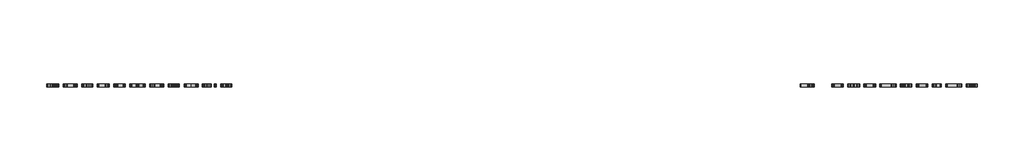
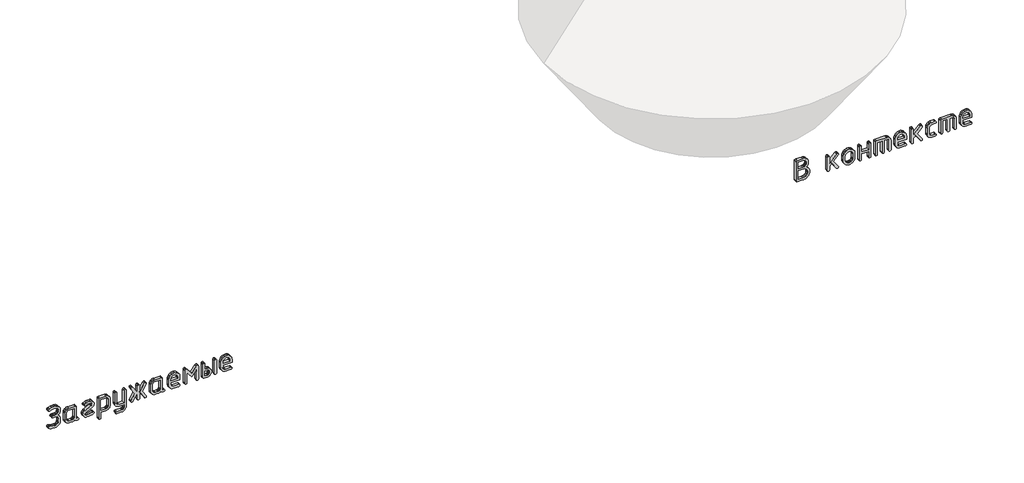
# One storey, part 6 of 6: 2 proxies.
"""IFC4 building model written with IfcOpenShell, lengths in millimetres."""

from ifc_helpers import new_model, si_unit, frame, origin, place, context, project, spatial, polyline, outline, extrude, element, save

model = new_model("IFC4")

# Units and contexts
model_context = context("Model", 3, world=origin())
ifc_project = project(units=[si_unit("LENGTHUNIT", "METRE", prefix="MILLI")], contexts=[model_context])

# Site, building, storey
site = spatial("IfcSite", under=ifc_project)
building = spatial("IfcBuilding", under=site)
storey = spatial("IfcBuildingStorey", under=building, Name="Уровень 1", Elevation=0.0)

# Proxies
placement = place(None, origin())
element("IfcBuildingElementProxy", 1, Name="600 мм Arial", ObjectType="600 мм Arial", at=placement, inside=storey, context=model_context, shape_type="SweptSolid", body=[
    extrude(outline(polyline([(253.4811122, 30670.0590454), (253.4811122, 30730.4380551), (250.122979, 30766.2880922), (240.0485795, 30799.4426377), (223.2579137, 30829.9016918), (199.7509815, 30857.6652543), (171.4820143, 30880.779094), (140.4052434, 30897.2889795), (106.5206689, 30907.1949108), (69.8282908, 30910.4968879), (33.259456, 30907.1724483), (-0.6138873, 30897.1991298), (-31.791739, 30880.5769321), (-60.2740993, 30857.3058554), (-84.016887, 30828.1046974), (-100.9760211, 30793.6922559), (-111.1515015, 30754.0685307), (-114.5433283, 30709.233522), (-114.5433283, 30669.3402476), (-114.5433283, 30633.7597597), (-118.8111899, 30593.8664854), (-124.1460168, 30579.3108313), (-131.6147745, 30568.3491658), (-150.3484405, 30554.6021591), (-172.406546, 30550.0198236), (-194.5994261, 30554.4673846), (-213.0186181, 30567.8100675), (-220.2515203, 30578.7829642), (-225.417879, 30593.9114103), (-229.550966, 30636.6349507), (-229.550966, 30671.137242), (-229.550966, 30707.4365276), (-235.256423, 30766.0859303), (-242.3882443, 30791.9570332), (-252.3727941, 30815.5257371), (-265.2100724, 30836.7920419), (-280.9000792, 30855.7559478), (-299.4428145, 30872.4174547), (-320.8382784, 30886.7765626), (-364.5052408, 30904.5668065), (-411.406793, 30910.4968879), (-531.8054137, 30910.4968879), (-568.2619363, 30907.2286044), (-601.7983432, 30897.423754), (-632.4146342, 30881.0823368), (-660.1108095, 30858.2043526), (-683.0674121, 30830.6092583), (-699.4649855, 30800.1165106), (-709.3035295, 30766.7261096), (-712.5830442, 30730.4380551), (-710.7860498, 30647.5966161), (-705.3950668, 30590.2724967), (-688.9525686, 30526.4791977), (-659.7514106, 30457.2949157), (-654.3604276, 30443.2783599), (-652.5634333, 30429.9806018), (-657.0109942, 30407.2036985), (-670.3536772, 30387.7512348), (-689.8061409, 30374.4085518), (-712.5830442, 30369.9609909), (-728.1944325, 30372.1173841), (-741.9639016, 30378.5865637), (-753.8914515, 30389.3685297), (-763.9770822, 30404.4632822), (-791.8080321, 30466.0777255), (-811.6872819, 30530.8818339), (-823.6148318, 30598.8756071), (-827.5906818, 30670.0590454), (-827.5906818, 30730.4380551), (-822.1435427, 30790.1768857), (-805.8021255, 30845.0413691), (-778.56643, 30895.0315053), (-740.4364564, 30940.1472944), (-694.5569447, 30977.491083), (-644.072635, 31004.1652177), (-588.9835273, 31020.1696986), (-529.2896216, 31025.5045255), (-404.6680643, 31022.7191843), (-331.2608455, 31014.3631606), (-285.6845766, 30999.0662463), (-243.837071, 30975.8176321), (-205.7183286, 30944.6173179), (-171.3283494, 30905.4653037), (-147.6866427, 30933.5994963), (-122.2254791, 30957.9824633), (-94.9448588, 30978.6142045), (-65.8447818, 30995.4947201), (-34.9252479, 31008.62401), (-2.1862573, 31018.0020742), (32.3721901, 31023.6289127), (68.7500942, 31025.5045255), (128.6349305, 31020.1696986), (183.9374313, 31004.1652177), (234.6575965, 30977.491083), (280.7954261, 30940.1472944), (319.1612553, 30895.0315053), (346.5654189, 30845.0413691), (363.0079171, 30790.1768857), (368.4887498, 30730.4380551), (368.4887498, 30670.0590454), (364.5128999, 30597.5278614), (352.58535, 30529.0848395), (332.7061001, 30464.7299798), (304.8751503, 30404.4632822), (294.5199704, 30389.3685297), (282.5025708, 30378.5865637), (268.8229514, 30372.1173841), (253.4811122, 30369.9609909), (231.1534575, 30374.4984016), (211.6111441, 30388.1106337), (197.998912, 30407.6529471), (193.4615013, 30429.9806018), (195.2584956, 30443.2783599), (200.6494786, 30457.2949157), (223.7633183, 30511.159821), (240.2732038, 30564.5754777), (250.1791351, 30617.5418858), (253.4811122, 30670.0590454)])), frame((0.0, 248.4758454, 0.0), z_axis=(0.0, 1.0, 0.0), x_axis=(0.0, 0.0, 1.0)), (0.0, 0.0, 1.0), 150.0),
    extrude(outline(polyline([(-768.2898686, 31996.600266), (-742.5029999, 31992.8490403), (-724.0838079, 31981.5953633), (-713.0322927, 31962.8392349), (-709.3484543, 31936.5806551), (-705.6421535, 31910.3220753), (-694.5232511, 31891.5659469), (-675.9917469, 31880.3122699), (-650.0476412, 31876.5610442), (-58.8365038, 31876.5610442), (-32.8923981, 31872.6750439), (-14.360894, 31861.0170432), (-3.2419915, 31841.5870419), (0.4643093, 31814.3850401), (0.4643093, 31503.8644184), (-3.8260146, 31453.76197), (-16.6969866, 31407.6802964), (-38.1486065, 31365.6193977), (-68.1808744, 31327.5792738), (-104.4127727, 31296.0532544), (-144.4632841, 31273.5346691), (-188.3324083, 31260.0235179), (-236.0201456, 31255.5198008), (-591.1062269, 31255.5198008), (-638.7939641, 31260.0235179), (-682.6630884, 31273.5346691), (-722.7135997, 31296.0532544), (-758.9454981, 31327.5792738), (-788.977766, 31365.6193977), (-810.4293859, 31407.6802964), (-823.3003578, 31453.76197), (-827.5906818, 31503.8644184), (-827.5906818, 31628.2164266), (-823.6148318, 31676.0614009), (-811.6872819, 31720.0428373), (-791.8080321, 31760.1607359), (-763.9770822, 31796.4150967), (-791.8080321, 31826.0655033), (-811.6872819, 31859.3098985), (-823.6148318, 31896.1482825), (-827.5906818, 31936.5806551), (-823.884381, 31962.8392349), (-812.7654785, 31981.5953633), (-794.2339744, 31992.8490403), (-768.2898686, 31996.600266)]), holes=[polyline([(-114.5433283, 31761.5534065), (-592.9032212, 31761.5534065), (-616.9380205, 31759.172389), (-639.0859757, 31752.0293365), (-659.3470869, 31740.1242491), (-677.721354, 31723.4571266), (-692.9733434, 31703.3981773), (-703.8676216, 31681.3176093), (-710.4041885, 31657.2154228), (-712.5830442, 31631.0916176), (-712.5830442, 31500.9892275), (-710.3704949, 31475.1574339), (-703.732847, 31451.2124843), (-692.6701006, 31429.1543788), (-677.1822557, 31408.9831173), (-658.6395204, 31392.1587578), (-638.4121028, 31380.1413582), (-616.5000031, 31372.9309184), (-592.9032212, 31370.5274385), (-234.2231513, 31370.5274385), (-210.188352, 31372.908456), (-188.0403968, 31380.0515085), (-167.7792856, 31391.956596), (-149.4050185, 31408.6237185), (-134.153029, 31428.6826678), (-123.2587509, 31450.7632357), (-116.722184, 31474.8654223), (-114.5433283, 31500.9892275), (-114.5433283, 31761.5534065)])]), frame((0.0, 248.4758454, 0.0), z_axis=(0.0, 1.0, 0.0), x_axis=(0.0, 0.0, 1.0)), (0.0, 0.0, 1.0), 150.0),
    extrude(outline(polyline([(-652.5634333, 32767.1514383), (-656.8762197, 32744.1499108), (-681.2479554, 32675.4822646), (-698.656338, 32601.3787106), (-709.1013676, 32521.8392487), (-712.5830442, 32436.8638789), (-710.954518, 32418.8602419), (-706.0689397, 32402.226813), (-697.9263091, 32386.9635924), (-686.5266262, 32373.0705799), (-672.8133132, 32361.5136601), (-657.729792, 32353.2587173), (-641.2760626, 32348.3057517), (-623.452125, 32346.6547631), (-597.1036955, 32349.8444281), (-574.8434281, 32359.4134229), (-556.6713229, 32375.3617477), (-542.5873797, 32397.6894023), (-395.5932429, 32706.0536308), (-380.0773199, 32734.4405258), (-362.2814603, 32759.0425014), (-342.2056642, 32779.8595577), (-319.8499315, 32796.8916946), (-295.2142622, 32810.1389123), (-268.2986564, 32819.6012106), (-239.103114, 32825.2785896), (-207.6276351, 32827.1710492), (-165.9373664, 32823.3299738), (-127.4816876, 32811.8067476), (-92.2605985, 32792.6013706), (-60.2740993, 32765.7138429), (-33.7010455, 32733.3679448), (-14.7202928, 32697.7874569), (-3.3318412, 32658.9723792), (0.4643093, 32616.9227116), (-3.5564655, 32525.9049484), (-15.61879, 32445.8488506), (-35.7226642, 32376.7544183), (-63.868088, 32318.6216515), (-74.3131176, 32304.627558), (-86.2406675, 32294.631777), (-99.6507377, 32288.6343084), (-114.5433283, 32286.6351522), (-136.870983, 32291.1725629), (-156.4132964, 32304.784795), (-170.0255285, 32324.3271085), (-174.5629392, 32346.6547631), (-172.7659449, 32362.0190647), (-167.3749619, 32375.0472737), (-142.4865903, 32421.9488259), (-127.4816876, 32464.8969906), (-117.7779181, 32527.5222433), (-114.5433283, 32616.9227116), (-116.1718544, 32634.9263487), (-121.0574328, 32651.5597775), (-129.2000634, 32666.8229982), (-140.5997462, 32680.7160106), (-154.3130593, 32692.2729305), (-169.3965805, 32700.5278732), (-185.8503099, 32705.4808389), (-203.6742475, 32707.1318274), (-229.5060411, 32704.0544746), (-251.2945975, 32694.8224162), (-269.0399166, 32679.4356522), (-282.7419984, 32657.8941825), (-431.5331296, 32346.6547631), (-447.0490526, 32318.5205705), (-464.8449122, 32294.1376036), (-484.9207083, 32273.5058623), (-507.276441, 32256.6253468), (-531.9121102, 32243.4960569), (-558.8277161, 32234.1179927), (-588.0232585, 32228.4911542), (-619.4987374, 32226.6155413), (-661.1890061, 32230.4566167), (-699.6446849, 32241.9798429), (-734.865774, 32261.1852199), (-766.8522732, 32288.0727477), (-793.425327, 32320.4186458), (-812.4060797, 32355.9991337), (-823.7945313, 32394.8142114), (-827.5906818, 32436.8638789), (-823.6148318, 32549.5803488), (-811.6872819, 32646.5731182), (-791.8080321, 32727.8421872), (-778.8865196, 32762.580334), (-763.9770822, 32793.3875557), (-753.8914515, 32808.1678341), (-741.9639016, 32818.7251758), (-728.1944325, 32825.0595809), (-712.5830442, 32827.1710492), (-686.3244644, 32823.4198235), (-667.568336, 32812.1661465), (-656.3146589, 32793.4100181), (-652.5634333, 32767.1514383)])), frame((0.0, 248.4758454, 0.0), z_axis=(0.0, 1.0, 0.0), x_axis=(0.0, 0.0, 1.0)), (0.0, 0.0, 1.0), 150.0),
    extrude(outline(polyline([(-59.1959027, 33072.6404759), (-1135.9549103, 33072.6404759), (-1162.0562531, 33076.2344645), (-1180.7000693, 33087.0164306), (-1191.8863591, 33104.986374), (-1195.6151223, 33130.1442947), (-1191.7740469, 33155.3022154), (-1180.2508207, 33173.2721588), (-1161.0454437, 33184.0541248), (-1134.157916, 33187.6481135), (-827.5906818, 33187.6481135), (-827.5906818, 33440.6649164), (-823.2778954, 33491.7894053), (-810.3395362, 33538.7808072), (-788.7756041, 33581.6391222), (-758.5860992, 33620.3643502), (-722.2418887, 33652.4406992), (-682.2138398, 33675.352377), (-638.5019526, 33689.0993837), (-591.1062269, 33693.6817192), (-236.0201456, 33693.6817192), (-188.3324083, 33689.1780022), (-144.4632841, 33675.666851), (-104.4127727, 33653.1482657), (-68.1808744, 33621.6222462), (-38.1486065, 33583.5821223), (-16.6969866, 33541.5212236), (-3.8260146, 33495.43955), (0.4643093, 33445.3371016), (0.4643093, 33134.81648), (-3.2644539, 33107.6144782), (-14.4507437, 33088.1844769), (-33.0945599, 33076.5264761), (-59.1959027, 33072.6404759)]), holes=[polyline([(-114.5433283, 33187.6481135), (-114.5433283, 33448.2122926), (-116.6997215, 33474.7741152), (-123.1689011, 33499.1121572), (-133.9508672, 33521.2264188), (-149.0456196, 33541.1168999), (-167.3075746, 33557.5481669), (-187.5911482, 33569.2847861), (-209.8963404, 33576.3267577), (-234.2231513, 33578.6740816), (-592.9032212, 33578.6740816), (-616.9380205, 33576.2930641), (-639.0859757, 33569.1500116), (-659.3470869, 33557.2449241), (-677.721354, 33540.5778016), (-692.9733434, 33520.5188523), (-703.8676216, 33498.4382844), (-710.4041885, 33474.3360978), (-712.5830442, 33448.2122926), (-712.5830442, 33187.6481135), (-114.5433283, 33187.6481135)])]), frame((0.0, 248.4758454, 0.0), z_axis=(0.0, 1.0, 0.0), x_axis=(0.0, 0.0, 1.0)), (0.0, 0.0, 1.0), 150.0),
    extrude(outline(polyline([(-955.8960776, 34429.7306002), (-981.6941775, 34427.3832764), (-1005.1786473, 34420.3413048), (-1026.3494869, 34408.6046856), (-1045.2066962, 34392.1734186), (-1060.6945412, 34372.2829375), (-1071.7572875, 34350.1686759), (-1078.3949354, 34325.8306338), (-1080.6074847, 34299.2688113), (-1080.6074847, 34038.7046322), (-1084.9651959, 34016.3769775), (-1098.0383297, 33996.8346641), (-1116.7719957, 33983.222432), (-1138.1113035, 33978.6850213), (-1163.2692242, 33982.436247), (-1181.2391676, 33993.689924), (-1192.0211336, 34012.4460524), (-1195.6151223, 34038.7046322), (-1195.6151223, 34294.596626), (-1191.1675613, 34345.1932478), (-1177.8248784, 34391.6792451), (-1155.5870734, 34434.0546179), (-1124.4541465, 34472.3193661), (-1086.9868146, 34504.0026225), (-1045.7457945, 34526.6335199), (-1000.7310863, 34540.2120584), (-951.94269, 34544.7382379), (-37.6319706, 34544.7382379), (-10.9016799, 34541.1442492), (8.191385, 34530.3622832), (19.6472239, 34512.3923398), (23.4658369, 34487.2344191), (19.6247615, 34462.0764983), (8.1015353, 34444.1065549), (-11.1038417, 34433.3245889), (-37.9913695, 34429.7306002), (-712.5830442, 34429.7306002), (-712.5830442, 34169.1664212), (-710.3143388, 34143.3346276), (-703.5082227, 34119.389678), (-692.164696, 34097.3315725), (-676.2837585, 34077.160311), (-657.2805434, 34060.3359515), (-636.5701836, 34048.3185519), (-614.1526793, 34041.1081121), (-590.0280303, 34038.7046322), (-37.9913695, 34038.7046322), (-11.1038417, 34035.1106435), (8.1015353, 34024.3286775), (19.6247615, 34006.3587341), (23.4658369, 33981.2008134), (19.6696863, 33956.0428926), (8.2812347, 33938.0729492), (-10.699518, 33927.2909832), (-37.2725718, 33923.6969945), (-584.2776484, 33923.6969945), (-633.0548135, 33928.2793301), (-678.035828, 33942.0263368), (-719.220692, 33964.9380146), (-756.6094054, 33997.0143635), (-787.6637139, 34035.7395915), (-809.8453627, 34078.5979065), (-823.154352, 34125.5893085), (-827.5906818, 34176.7137974), (-827.5906818, 34429.7306002), (-955.8960776, 34429.7306002)])), frame((0.0, 248.4758454, 0.0), z_axis=(0.0, 1.0, 0.0), x_axis=(0.0, 0.0, 1.0)), (0.0, 0.0, 1.0), 150.0),
    extrude(outline(polyline([(-421.4699613, 35142.7779537), (-766.8522732, 35142.7779537), (-793.425327, 35146.3719424), (-812.4060797, 35157.1539084), (-823.7945313, 35175.1238518), (-827.5906818, 35200.2817726), (-823.7945313, 35225.4396933), (-812.4060797, 35243.4096367), (-793.425327, 35254.1916027), (-766.8522732, 35257.7855914), (-421.4699613, 35257.7855914), (-800.9951656, 35507.9272033), (-812.6307039, 35517.5186606), (-820.9418028, 35529.0418868), (-825.9284621, 35542.4968819), (-827.5906818, 35557.8836459), (-823.7945313, 35584.1422257), (-812.4060797, 35602.8983541), (-793.425327, 35614.1520311), (-766.8522732, 35617.9032568), (-748.6127806, 35615.3874647), (-732.7093807, 35607.8400885), (-402.0624225, 35388.6067792), (-71.4154642, 35607.8400885), (-55.5120643, 35615.3874647), (-37.2725718, 35617.9032568), (-10.699518, 35614.1520311), (8.2812347, 35602.8983541), (19.6696863, 35584.1422257), (23.4658369, 35557.8836459), (21.8036171, 35542.4968819), (16.8169578, 35529.0418868), (8.505859, 35517.5186606), (-3.1296793, 35507.9272033), (-382.6548836, 35257.7855914), (-37.2725718, 35257.7855914), (-10.699518, 35254.1916027), (8.2812347, 35243.4096367), (19.6696863, 35225.4396933), (23.4658369, 35200.2817726), (19.6696863, 35175.1238518), (8.2812347, 35157.1539084), (-10.699518, 35146.3719424), (-37.2725718, 35142.7779537), (-382.6548836, 35142.7779537), (-3.1296793, 34892.276943), (8.505859, 34882.6854857), (16.8169578, 34871.1622595), (21.8036171, 34857.7072644), (23.4658369, 34842.3205003), (19.6696863, 34816.0619206), (8.2812347, 34797.3057922), (-10.699518, 34786.0521151), (-37.2725718, 34782.3008894), (-55.5120643, 34784.8166815), (-71.4154642, 34792.3640577), (-402.0624225, 35011.597367), (-732.7093807, 34792.3640577), (-748.6127806, 34784.8166815), (-766.8522732, 34782.3008894), (-789.9436504, 34786.7484504), (-809.6207384, 34800.0911334), (-823.098196, 34819.5435971), (-827.5906818, 34842.3205003), (-825.9284621, 34857.7072644), (-820.9418028, 34871.1622595), (-812.6307039, 34882.6854857), (-800.9951656, 34892.276943), (-421.4699613, 35142.7779537)])), frame((0.0, 248.4758454, 0.0), z_axis=(0.0, 1.0, 0.0), x_axis=(0.0, 0.0, 1.0)), (0.0, 0.0, 1.0), 150.0),
    extrude(outline(polyline([(-768.2898686, 36596.9057724), (-742.5029999, 36593.1545467), (-724.0838079, 36581.9008697), (-713.0322927, 36563.1447413), (-709.3484543, 36536.8861615), (-705.6421535, 36510.6275817), (-694.5232511, 36491.8714533), (-675.9917469, 36480.6177763), (-650.0476412, 36476.8665506), (-58.8365038, 36476.8665506), (-32.8923981, 36472.9805503), (-14.360894, 36461.3225496), (-3.2419915, 36441.8925483), (0.4643093, 36414.6905465), (0.4643093, 36104.1699248), (-3.8260146, 36054.0674764), (-16.6969866, 36007.9858028), (-38.1486065, 35965.9249041), (-68.1808744, 35927.8847802), (-104.4127727, 35896.3587608), (-144.4632841, 35873.8401755), (-188.3324083, 35860.3290243), (-236.0201456, 35855.8253072), (-591.1062269, 35855.8253072), (-638.7939641, 35860.3290243), (-682.6630884, 35873.8401755), (-722.7135997, 35896.3587608), (-758.9454981, 35927.8847802), (-788.977766, 35965.9249041), (-810.4293859, 36007.9858028), (-823.3003578, 36054.0674764), (-827.5906818, 36104.1699248), (-827.5906818, 36228.521933), (-823.6148318, 36276.3669073), (-811.6872819, 36320.3483437), (-791.8080321, 36360.4662423), (-763.9770822, 36396.7206031), (-791.8080321, 36426.3710097), (-811.6872819, 36459.6154049), (-823.6148318, 36496.4537889), (-827.5906818, 36536.8861615), (-823.884381, 36563.1447413), (-812.7654785, 36581.9008697), (-794.2339744, 36593.1545467), (-768.2898686, 36596.9057724)]), holes=[polyline([(-114.5433283, 36361.8589129), (-592.9032212, 36361.8589129), (-616.9380205, 36359.4778954), (-639.0859757, 36352.3348429), (-659.3470869, 36340.4297554), (-677.721354, 36323.7626329), (-692.9733434, 36303.7036836), (-703.8676216, 36281.6231157), (-710.4041885, 36257.5209291), (-712.5830442, 36231.397124), (-712.5830442, 36101.2947339), (-710.3704949, 36075.4629402), (-703.732847, 36051.5179907), (-692.6701006, 36029.4598852), (-677.1822557, 36009.2886237), (-658.6395204, 35992.4642642), (-638.4121028, 35980.4468646), (-616.5000031, 35973.2364248), (-592.9032212, 35970.8329449), (-234.2231513, 35970.8329449), (-210.188352, 35973.2139624), (-188.0403968, 35980.3570149), (-167.7792856, 35992.2621024), (-149.4050185, 36008.9292249), (-134.153029, 36028.9881742), (-123.2587509, 36051.0687421), (-116.722184, 36075.1709287), (-114.5433283, 36101.2947339), (-114.5433283, 36361.8589129)])]), frame((0.0, 248.4758454, 0.0), z_axis=(0.0, 1.0, 0.0), x_axis=(0.0, 0.0, 1.0)), (0.0, 0.0, 1.0), 150.0),
    extrude(outline(polyline([(-459.5662413, 36936.8971012), (-459.5662413, 37417.4133873), (-278.429212, 37417.4133873), (-217.3089421, 37411.9774794), (-161.1753314, 37395.6697558), (-110.02838, 37368.4902165), (-63.868088, 37330.4388613), (-25.6594959, 37284.4807311), (1.6323557, 37233.5808665), (18.0074666, 37177.7392674), (23.4658369, 37116.9559339), (17.9063856, 37057.2171034), (1.2280319, 37002.35262), (-26.5692242, 36952.3624837), (-65.4853829, 36907.2466946), (-112.2858542, 36869.902906), (-163.7360483, 36843.2287713), (-219.8359653, 36827.2242905), (-280.5856052, 36821.8894636), (-584.2776484, 36821.8894636), (-633.4928308, 36826.0787066), (-678.7097009, 36838.6464358), (-719.9282585, 36859.592651), (-757.1485037, 36888.9173524), (-787.9669567, 36924.5539964), (-809.9801373, 36964.4360395), (-823.1880457, 37008.5634817), (-827.5906818, 37056.936323), (-827.5906818, 37357.3937764), (-823.9966931, 37383.6523562), (-813.2147271, 37402.4084846), (-795.2447837, 37413.6621616), (-770.086863, 37417.4133873), (-744.9289422, 37413.6621616), (-726.9589989, 37402.4084846), (-716.1770328, 37383.6523562), (-712.5830442, 37357.3937764), (-712.5830442, 37056.936323), (-710.2469515, 37033.3283099), (-703.2386736, 37011.3825165), (-691.5582104, 36991.098943), (-675.2055619, 36972.4775891), (-655.6183236, 36956.9111257), (-634.234091, 36945.7922232), (-611.052864, 36939.1208817), (-586.0746427, 36936.8971012), (-459.5662413, 36936.8971012)]), holes=[polyline([(-104.48016, 37116.9559339), (-107.7821371, 37152.963208), (-117.6880684, 37186.2300657), (-134.1979539, 37216.756507), (-157.3117936, 37244.542532), (-185.0753561, 37267.6563716), (-215.5344101, 37284.1662571), (-248.6889557, 37294.0721884), (-284.5389927, 37297.3741655), (-344.5586036, 37297.3741655), (-344.5586036, 36936.8971012), (-284.5389927, 36936.8971012), (-248.6889557, 36940.1990783), (-215.5344101, 36950.1050096), (-185.0753561, 36966.6148951), (-157.3117936, 36989.7287348), (-134.1979539, 37017.4922973), (-117.6880684, 37047.9513513), (-107.7821371, 37081.1058969), (-104.48016, 37116.9559339)])]), frame((0.0, 248.4758454, 0.0), z_axis=(0.0, 1.0, 0.0), x_axis=(0.0, 0.0, 1.0)), (0.0, 0.0, 1.0), 150.0),
    extrude(outline(polyline([(-519.9452511, 38037.3764341), (-212.2998203, 38286.4398494), (-766.8522732, 38293.9872256), (-793.425327, 38297.5812143), (-812.4060797, 38308.3631803), (-823.7945313, 38326.3331237), (-827.5906818, 38351.4910444), (-823.7945313, 38376.6489652), (-812.4060797, 38394.6189086), (-793.425327, 38405.4008746), (-766.8522732, 38408.9948633), (-37.2725718, 38408.9948633), (-10.699518, 38405.4008746), (8.2812347, 38394.6189086), (19.6696863, 38376.6489652), (23.4658369, 38351.4910444), (21.0848194, 38337.1150897), (13.9417669, 38322.739135), (2.0366794, 38308.3631803), (-14.6304431, 38293.9872256), (-322.2758738, 38040.9704228), (-14.6304431, 37787.9536199), (2.0366794, 37773.5776652), (13.9417669, 37759.2017105), (21.0848194, 37744.8257558), (23.4658369, 37730.4498011), (19.6696863, 37705.2918803), (8.2812347, 37687.321937), (-10.699518, 37676.5399709), (-37.2725718, 37672.9459822), (-766.8522732, 37672.9459822), (-793.425327, 37676.5399709), (-812.4060797, 37687.321937), (-823.7945313, 37705.2918803), (-827.5906818, 37730.4498011), (-823.7945313, 37755.6077218), (-812.4060797, 37773.5776652), (-793.425327, 37784.3596312), (-766.8522732, 37787.9536199), (-212.2998203, 37787.9536199), (-519.9452511, 38037.3764341)])), frame((0.0, 248.4758454, 0.0), z_axis=(0.0, 1.0, 0.0), x_axis=(0.0, 0.0, 1.0)), (0.0, 0.0, 1.0), 150.0),
    extrude(outline(polyline([(-37.2725718, 39260.0513819), (-766.8522732, 39260.0513819), (-793.425327, 39263.6453706), (-812.4060797, 39274.4273367), (-823.7945313, 39292.39728), (-827.5906818, 39317.5552008), (-823.7945313, 39342.7131215), (-812.4060797, 39360.6830649), (-793.425327, 39371.4650309), (-766.8522732, 39375.0590196), (-37.2725718, 39375.0590196), (-10.699518, 39371.4650309), (8.2812347, 39360.6830649), (19.6696863, 39342.7131215), (23.4658369, 39317.5552008), (19.6696863, 39292.39728), (8.2812347, 39274.4273367), (-10.699518, 39263.6453706), (-37.2725718, 39260.0513819)])), frame((0.0, 248.4758454, 0.0), z_axis=(0.0, 1.0, 0.0), x_axis=(0.0, 0.0, 1.0)), (0.0, 0.0, 1.0), 150.0),
    extrude(outline(polyline([(-586.0746427, 39114.4948405), (-537.2076279, 39110.1371293), (-492.3164631, 39097.0639954), (-451.4011483, 39075.2754391), (-414.4616834, 39044.7714602), (-383.879086, 39007.9555387), (-362.0343736, 38967.2311545), (-348.9275461, 38922.5983076), (-344.5586036, 38874.0569981), (-344.5586036, 38754.0177762), (-37.9913695, 38754.0177762), (-11.1038417, 38750.4237876), (8.1015353, 38739.6418215), (19.6247615, 38721.6718782), (23.4658369, 38696.5139574), (19.6696863, 38671.3560367), (8.2812347, 38653.3860933), (-10.699518, 38642.6041273), (-37.2725718, 38639.0101386), (-766.8522732, 38639.0101386), (-793.425327, 38642.6041273), (-812.4060797, 38653.3860933), (-823.7945313, 38671.3560367), (-827.5906818, 38696.5139574), (-827.5906818, 38874.0569981), (-823.2217393, 38922.5983076), (-810.1149119, 38967.2311545), (-788.2701994, 39007.9555387), (-757.687602, 39044.7714602), (-720.7481372, 39075.2754391), (-679.8328223, 39097.0639954), (-634.9416575, 39110.1371293), (-586.0746427, 39114.4948405)]), holes=[polyline([(-586.0746427, 38994.4556187), (-611.4908814, 38992.2655319), (-634.9079639, 38985.6952713), (-656.3258901, 38974.7448371), (-675.7446602, 38959.4142291), (-691.8614532, 38940.9388811), (-703.3734482, 38920.5542266), (-710.2806452, 38898.2602655), (-712.5830442, 38874.0569981), (-712.5830442, 38754.0177762), (-459.5662413, 38754.0177762), (-459.5662413, 38874.0569981), (-461.8461779, 38898.5522771), (-468.6859876, 38921.0034751), (-480.0856704, 38941.4105921), (-496.0452264, 38959.773628), (-515.3516843, 38974.9469989), (-536.792073, 38985.785121), (-560.3663925, 38992.2879943), (-586.0746427, 38994.4556187)])]), frame((0.0, 248.4758454, 0.0), z_axis=(0.0, 1.0, 0.0), x_axis=(0.0, 0.0, 1.0)), (0.0, 0.0, 1.0), 150.0),
    extrude(outline(polyline([(-459.5662413, 39720.0819326), (-459.5662413, 40200.5982187), (-278.429212, 40200.5982187), (-217.3089421, 40195.1623108), (-161.1753314, 40178.8545872), (-110.02838, 40151.6750478), (-63.868088, 40113.6236927), (-25.6594959, 40067.6655625), (1.6323557, 40016.7656979), (18.0074666, 39960.9240988), (23.4658369, 39900.1407653), (17.9063856, 39840.4019348), (1.2280319, 39785.5374514), (-26.5692242, 39735.5473151), (-65.4853829, 39690.431526), (-112.2858542, 39653.0877374), (-163.7360483, 39626.4136027), (-219.8359653, 39610.4091219), (-280.5856052, 39605.0742949), (-584.2776484, 39605.0742949), (-633.4928308, 39609.263538), (-678.7097009, 39621.8312671), (-719.9282585, 39642.7774824), (-757.1485037, 39672.1021837), (-787.9669567, 39707.7388277), (-809.9801373, 39747.6208708), (-823.1880457, 39791.748313), (-827.5906818, 39840.1211544), (-827.5906818, 40140.5786078), (-823.9966931, 40166.8371875), (-813.2147271, 40185.593316), (-795.2447837, 40196.846993), (-770.086863, 40200.5982187), (-744.9289422, 40196.846993), (-726.9589989, 40185.593316), (-716.1770328, 40166.8371875), (-712.5830442, 40140.5786078), (-712.5830442, 39840.1211544), (-710.2469515, 39816.5131413), (-703.2386736, 39794.5673479), (-691.5582104, 39774.2837743), (-675.2055619, 39755.6624205), (-655.6183236, 39740.095957), (-634.234091, 39728.9770546), (-611.052864, 39722.3057131), (-586.0746427, 39720.0819326), (-459.5662413, 39720.0819326)]), holes=[polyline([(-104.48016, 39900.1407653), (-107.7821371, 39936.1480394), (-117.6880684, 39969.414897), (-134.1979539, 39999.9413384), (-157.3117936, 40027.7273633), (-185.0753561, 40050.841203), (-215.5344101, 40067.3510885), (-248.6889557, 40077.2570198), (-284.5389927, 40080.5589969), (-344.5586036, 40080.5589969), (-344.5586036, 39720.0819326), (-284.5389927, 39720.0819326), (-248.6889557, 39723.3839097), (-215.5344101, 39733.289841), (-185.0753561, 39749.7997265), (-157.3117936, 39772.9135661), (-134.1979539, 39800.6771287), (-117.6880684, 39831.1361827), (-107.7821371, 39864.2907282), (-104.48016, 39900.1407653)])]), frame((0.0, 248.4758454, 0.0), z_axis=(0.0, 1.0, 0.0), x_axis=(0.0, 0.0, 1.0)), (0.0, 0.0, 1.0), 150.0),
])
element("IfcBuildingElementProxy", 2, Name="600 мм Arial", ObjectType="600 мм Arial", at=placement, inside=storey, context=model_context, shape_type="SweptSolid", body=[
    extrude(outline(polyline([(-165.9373664, 70919.1224607), (-142.548362, 70944.0557571), (-117.4859066, 70965.664614), (-90.7500002, 70983.9490314), (-62.3406428, 70998.9090093), (-32.2578344, 71010.5445477), (-0.5015751, 71018.8556465), (32.9281352, 71023.8423058), (68.0312965, 71025.5045255), (128.81463, 71020.0236928), (184.656229, 71003.5811946), (235.5560937, 70976.1770309), (281.5142239, 70937.8112018), (319.565579, 70891.4487479), (346.7451184, 70840.0547098), (363.052842, 70783.6290876), (368.4887498, 70722.1718812), (368.4887498, 70419.1986357), (364.7599866, 70392.625582), (353.5736968, 70373.6448293), (334.9298806, 70362.2563776), (308.8285378, 70358.4602271), (-767.9304698, 70358.4602271), (-794.0318125, 70362.3013025), (-812.6756288, 70373.8245287), (-823.8619186, 70393.0299057), (-827.5906818, 70419.9174335), (-827.5906818, 70726.4846676), (-825.9537323, 70763.8846123), (-821.0428837, 70799.8918863), (-812.858136, 70834.5064898), (-801.3994893, 70867.7284226), (-786.6669436, 70899.5576848), (-768.6604987, 70929.9942764), (-747.3801548, 70959.0381974), (-722.8259119, 70986.6894478), (-695.9580387, 71011.9596807), (-667.7368042, 71033.8605492), (-638.1622083, 71052.3920533), (-607.2342511, 71067.554193), (-574.9529325, 71079.3469684), (-541.3182525, 71087.7703793), (-506.3302112, 71092.8244259), (-469.9888085, 71094.5091081), (-420.8185509, 71091.7686917), (-374.8379582, 71083.5474426), (-332.0470306, 71069.8453608), (-292.4457678, 71050.6624463), (-256.03417, 71025.998699), (-222.8122372, 70995.8541189), (-192.7799693, 70960.2287062), (-165.9373664, 70919.1224607)]), holes=[polyline([(253.4811122, 70473.4678648), (253.4811122, 70723.2500778), (250.1117478, 70760.6387912), (240.0036546, 70795.1747762), (223.1568327, 70826.8580326), (199.571282, 70855.6885605), (171.2236963, 70879.6672037), (140.0907694, 70896.794806), (106.1725013, 70907.0713674), (69.4688919, 70910.4968879), (32.7652826, 70907.0713674), (-1.1529856, 70896.794806), (-32.2859125, 70879.6672037), (-60.6334982, 70855.6885605), (-84.2190489, 70826.8580326), (-101.0658708, 70795.1747762), (-111.1739639, 70760.6387912), (-114.5433283, 70723.2500778), (-114.5433283, 70473.4678648), (253.4811122, 70473.4678648)]), polyline([(-229.550966, 70473.4678648), (-229.550966, 70726.4846676), (-233.9199085, 70777.6091565), (-247.0267359, 70824.6005585), (-268.8714484, 70867.4588735), (-299.4540457, 70906.1841014), (-336.3935106, 70938.2604504), (-377.3088255, 70961.1721282), (-422.1999903, 70974.9191349), (-471.0670051, 70979.5014705), (-519.9340199, 70974.9191349), (-564.8251847, 70961.1721282), (-605.7404995, 70938.2604504), (-642.6799644, 70906.1841014), (-673.2625618, 70867.4588735), (-695.1072742, 70824.6005585), (-708.2141017, 70777.6091565), (-712.5830442, 70726.4846676), (-712.5830442, 70473.4678648), (-229.550966, 70473.4678648)])]), frame((0.0, 248.4758454, 0.0), z_axis=(0.0, 1.0, 0.0), x_axis=(0.0, 0.0, 1.0)), (0.0, 0.0, 1.0), 150.0),
    extrude(outline(polyline([(-376.185704, 72152.5793746), (-37.2725718, 72152.5793746), (-10.699518, 72148.9853859), (8.2812347, 72138.2034199), (19.6696863, 72120.2334765), (23.4658369, 72095.0755558), (19.6696863, 72069.917635), (8.2812347, 72051.9476916), (-10.699518, 72041.1657256), (-37.2725718, 72037.5717369), (-766.8522732, 72037.5717369), (-793.425327, 72041.1657256), (-812.4060797, 72051.9476916), (-823.7945313, 72069.917635), (-827.5906818, 72095.0755558), (-823.8394561, 72120.2334765), (-812.5857791, 72138.2034199), (-793.8296507, 72148.9853859), (-767.5710709, 72152.5793746), (-550.8535537, 72152.5793746), (-439.0805058, 72264.7118213), (-802.0733622, 72522.7602083), (-813.2371895, 72532.7784517), (-821.2113519, 72544.5038398), (-825.9958493, 72557.9363725), (-827.5906818, 72573.0760498), (-823.8394561, 72599.3346295), (-812.5857791, 72618.090758), (-793.8296507, 72629.344435), (-767.5710709, 72633.0956607), (-749.0620292, 72630.13062), (-731.6311841, 72621.235498), (-346.7149968, 72350.9675495), (-79.6816382, 72614.7663184), (-59.9147004, 72628.5133251), (-37.2725718, 72633.0956607), (-10.699518, 72629.344435), (8.2812347, 72618.090758), (19.6696863, 72599.3346295), (23.4658369, 72573.0760498), (19.0632007, 72549.6252737), (5.8552924, 72530.3075845), (-376.185704, 72152.5793746)])), frame((0.0, 248.4758454, 0.0), z_axis=(0.0, 1.0, 0.0), x_axis=(0.0, 0.0, 1.0)), (0.0, 0.0, 1.0), 150.0),
    extrude(outline(polyline([(-523.5392398, 72888.6282556), (-584.2888796, 72894.300019), (-640.3887966, 72911.3153091), (-691.8389908, 72939.674126), (-738.6394621, 72979.3764697), (-777.5556207, 73027.1428255), (-805.3528769, 73079.6936786), (-822.0312306, 73137.0290292), (-827.5906818, 73199.1488773), (-822.0312306, 73261.2687253), (-805.3528769, 73318.6040759), (-777.5556207, 73371.1549291), (-738.6394621, 73418.9212849), (-691.8389908, 73458.6236285), (-640.3887966, 73486.9824454), (-584.2888796, 73503.9977356), (-523.5392398, 73509.669499), (-280.5856052, 73509.669499), (-218.9599306, 73504.0538917), (-162.3883026, 73487.2070697), (-110.8707211, 73459.1290332), (-64.4071863, 73419.819782), (-25.9627387, 73372.3342067), (1.4975811, 73319.7271974), (17.9737729, 73261.9987543), (23.4658369, 73199.1488773), (17.9063856, 73137.0290292), (1.2280319, 73079.6936786), (-26.5692242, 73027.1428255), (-65.4853829, 72979.3764697), (-112.2858542, 72939.674126), (-163.7360483, 72911.3153091), (-219.8359653, 72894.300019), (-280.5856052, 72888.6282556), (-523.5392398, 72888.6282556)]), holes=[polyline([(-532.5242114, 73394.6618613), (-568.3742485, 73391.0791038), (-601.528794, 73380.3308315), (-631.9878481, 73362.4170441), (-659.7514106, 73337.3377419), (-682.8652503, 73307.2043931), (-699.3751358, 73274.1284661), (-709.2810671, 73238.1099608), (-712.5830442, 73199.1488773), (-709.3147607, 73159.7497764), (-699.5099103, 73123.4954156), (-683.1684931, 73090.385795), (-660.2905089, 73060.4209144), (-632.6954146, 73035.5774676), (-602.2026669, 73017.8321485), (-568.8122659, 73007.1849571), (-532.5242114, 73003.6358933), (-292.086369, 73003.6358933), (-256.2363319, 73007.2186507), (-223.0817864, 73017.9669231), (-192.6227323, 73035.8807104), (-164.8591698, 73060.9600127), (-141.7453301, 73091.0933615), (-125.2354446, 73124.1692885), (-115.3295133, 73160.1877938), (-112.0275363, 73199.1488773), (-115.3295133, 73238.1099608), (-125.2354446, 73274.1284661), (-141.7453301, 73307.2043931), (-164.8591698, 73337.3377419), (-192.6227323, 73362.4170441), (-223.0817864, 73380.3308315), (-256.2363319, 73391.0791038), (-292.086369, 73394.6618613), (-532.5242114, 73394.6618613)])]), frame((0.0, 248.4758454, 0.0), z_axis=(0.0, 1.0, 0.0), x_axis=(0.0, 0.0, 1.0)), (0.0, 0.0, 1.0), 150.0),
    extrude(outline(polyline([(-459.5662413, 73854.6924119), (-459.5662413, 74245.71838), (-766.1334754, 74245.71838), (-793.0210032, 74249.3123687), (-812.2263802, 74260.0943347), (-823.7496064, 74278.0642781), (-827.5906818, 74303.2221988), (-823.7945313, 74328.3801196), (-812.4060797, 74346.3500629), (-793.425327, 74357.132029), (-766.8522732, 74360.7260176), (-37.2725718, 74360.7260176), (-10.699518, 74357.132029), (8.2812347, 74346.3500629), (19.6696863, 74328.3801196), (23.4658369, 74303.2221988), (19.6247615, 74278.0642781), (8.1015353, 74260.0943347), (-11.1038417, 74249.3123687), (-37.9913695, 74245.71838), (-344.5586036, 74245.71838), (-344.5586036, 73854.6924119), (-37.9913695, 73854.6924119), (-11.1038417, 73851.0984233), (8.1015353, 73840.3164572), (19.6247615, 73822.3465139), (23.4658369, 73797.1885931), (19.6696863, 73772.0306724), (8.2812347, 73754.060729), (-10.699518, 73743.278763), (-37.2725718, 73739.6847743), (-766.8522732, 73739.6847743), (-793.425327, 73743.278763), (-812.4060797, 73754.060729), (-823.7945313, 73772.0306724), (-827.5906818, 73797.1885931), (-823.7496064, 73822.3465139), (-812.2263802, 73840.3164572), (-793.0210032, 73851.0984233), (-766.1334754, 73854.6924119), (-459.5662413, 73854.6924119)])), frame((0.0, 248.4758454, 0.0), z_axis=(0.0, 1.0, 0.0), x_axis=(0.0, 0.0, 1.0)), (0.0, 0.0, 1.0), 150.0),
    extrude(outline(polyline([(0.4643093, 74651.4797016), (-3.2419915, 74624.9066478), (-14.360894, 74605.9258951), (-32.8923981, 74594.5374435), (-58.8365038, 74590.741293), (-768.2898686, 74590.741293), (-794.2339744, 74594.3352816), (-812.7654785, 74605.1172477), (-823.884381, 74623.0871911), (-827.5906818, 74648.2451118), (-823.884381, 74673.4030325), (-812.7654785, 74691.3729759), (-794.2339744, 74702.1549419), (-768.2898686, 74705.7489306), (-114.5433283, 74705.7489306), (-114.5433283, 74958.7657335), (-768.2898686, 74958.7657335), (-794.2339744, 74962.3597222), (-812.7654785, 74973.1416882), (-823.884381, 74991.1116316), (-827.5906818, 75016.2695523), (-823.884381, 75041.427473), (-812.7654785, 75059.3974164), (-794.2339744, 75070.1793825), (-768.2898686, 75073.7733711), (-114.5433283, 75073.7733711), (-114.5433283, 75200.2817726), (-116.6772591, 75225.9900228), (-123.0790514, 75249.5643423), (-133.7487053, 75271.004731), (-148.6862208, 75290.3111889), (-166.7909387, 75306.2707449), (-186.9622002, 75317.6704277), (-209.2000051, 75324.5102374), (-233.5043535, 75326.790174), (-768.2898686, 75326.790174), (-794.2339744, 75330.3841627), (-812.7654785, 75341.1661287), (-823.884381, 75359.1360721), (-827.5906818, 75384.2939928), (-823.884381, 75409.4519136), (-812.7654785, 75427.4218569), (-794.2339744, 75438.203823), (-768.2898686, 75441.7978116), (-236.0201456, 75441.7978116), (-188.6244199, 75437.3614819), (-144.9125326, 75424.0524926), (-104.8844838, 75401.8708437), (-68.5402733, 75370.8165353), (-38.3507684, 75333.4278218), (-16.7868363, 75292.2429578), (-3.8484771, 75247.2619433), (0.4643093, 75198.4847782), (0.4643093, 74651.4797016)])), frame((0.0, 248.4758454, 0.0), z_axis=(0.0, 1.0, 0.0), x_axis=(0.0, 0.0, 1.0)), (0.0, 0.0, 1.0), 150.0),
    extrude(outline(polyline([(-459.5662413, 75786.8207246), (-459.5662413, 76267.3370107), (-278.429212, 76267.3370107), (-217.3089421, 76261.9011028), (-161.1753314, 76245.5933792), (-110.02838, 76218.4138399), (-63.868088, 76180.3624847), (-25.6594959, 76134.4043545), (1.6323557, 76083.5044899), (18.0074666, 76027.6628908), (23.4658369, 75966.8795573), (17.9063856, 75907.1407268), (1.2280319, 75852.2762434), (-26.5692242, 75802.2861072), (-65.4853829, 75757.170318), (-112.2858542, 75719.8265294), (-163.7360483, 75693.1523947), (-219.8359653, 75677.1479139), (-280.5856052, 75671.813087), (-584.2776484, 75671.813087), (-633.4928308, 75676.00233), (-678.7097009, 75688.5700592), (-719.9282585, 75709.5162744), (-757.1485037, 75738.8409758), (-787.9669567, 75774.4776198), (-809.9801373, 75814.3596629), (-823.1880457, 75858.4871051), (-827.5906818, 75906.8599464), (-827.5906818, 76207.3173998), (-823.9966931, 76233.5759796), (-813.2147271, 76252.332108), (-795.2447837, 76263.585785), (-770.086863, 76267.3370107), (-744.9289422, 76263.585785), (-726.9589989, 76252.332108), (-716.1770328, 76233.5759796), (-712.5830442, 76207.3173998), (-712.5830442, 75906.8599464), (-710.2469515, 75883.2519333), (-703.2386736, 75861.30614), (-691.5582104, 75841.0225664), (-675.2055619, 75822.4012125), (-655.6183236, 75806.8347491), (-634.234091, 75795.7158466), (-611.052864, 75789.0445051), (-586.0746427, 75786.8207246), (-459.5662413, 75786.8207246)]), holes=[polyline([(-104.48016, 75966.8795573), (-107.7821371, 76002.8868314), (-117.6880684, 76036.1536891), (-134.1979539, 76066.6801304), (-157.3117936, 76094.4661554), (-185.0753561, 76117.579995), (-215.5344101, 76134.0898805), (-248.6889557, 76143.9958118), (-284.5389927, 76147.2977889), (-344.5586036, 76147.2977889), (-344.5586036, 75786.8207246), (-284.5389927, 75786.8207246), (-248.6889557, 75790.1227017), (-215.5344101, 75800.028633), (-185.0753561, 75816.5385185), (-157.3117936, 75839.6523582), (-134.1979539, 75867.4159207), (-117.6880684, 75897.8749747), (-107.7821371, 75931.0295203), (-104.48016, 75966.8795573)])]), frame((0.0, 248.4758454, 0.0), z_axis=(0.0, 1.0, 0.0), x_axis=(0.0, 0.0, 1.0)), (0.0, 0.0, 1.0), 150.0),
    extrude(outline(polyline([(-376.185704, 76637.8772433), (-37.2725718, 76637.8772433), (-10.699518, 76634.2832546), (8.2812347, 76623.5012886), (19.6696863, 76605.5313452), (23.4658369, 76580.3734245), (19.6696863, 76555.2155037), (8.2812347, 76537.2455604), (-10.699518, 76526.4635943), (-37.2725718, 76522.8696056), (-766.8522732, 76522.8696056), (-793.425327, 76526.4635943), (-812.4060797, 76537.2455604), (-823.7945313, 76555.2155037), (-827.5906818, 76580.3734245), (-823.8394561, 76605.5313452), (-812.5857791, 76623.5012886), (-793.8296507, 76634.2832546), (-767.5710709, 76637.8772433), (-550.8535537, 76637.8772433), (-439.0805058, 76750.00969), (-802.0733622, 77008.058077), (-813.2371895, 77018.0763205), (-821.2113519, 77029.8017085), (-825.9958493, 77043.2342412), (-827.5906818, 77058.3739185), (-823.8394561, 77084.6324983), (-812.5857791, 77103.3886267), (-793.8296507, 77114.6423037), (-767.5710709, 77118.3935294), (-749.0620292, 77115.4284887), (-731.6311841, 77106.5333668), (-346.7149968, 76836.2654183), (-79.6816382, 77100.0641872), (-59.9147004, 77113.8111938), (-37.2725718, 77118.3935294), (-10.699518, 77114.6423037), (8.2812347, 77103.3886267), (19.6696863, 77084.6324983), (23.4658369, 77058.3739185), (19.0632007, 77034.9231424), (5.8552924, 77015.6054532), (-376.185704, 76637.8772433)])), frame((0.0, 248.4758454, 0.0), z_axis=(0.0, 1.0, 0.0), x_axis=(0.0, 0.0, 1.0)), (0.0, 0.0, 1.0), 150.0),
    extrude(outline(polyline([(-234.2231513, 77488.933762), (-210.188352, 77491.1238488), (-188.0403968, 77497.6941094), (-167.7792856, 77508.6445436), (-149.4050185, 77523.9751516), (-134.153029, 77542.4280372), (-123.2587509, 77562.7453044), (-116.722184, 77584.9269533), (-114.5433283, 77608.9729838), (-114.5433283, 77789.3912154), (-110.9493396, 77815.6497951), (-100.1673736, 77834.4059236), (-82.1974302, 77845.6596006), (-57.0395095, 77849.4108263), (-31.8815888, 77845.6596006), (-13.9116454, 77834.4059236), (-3.1296793, 77815.6497951), (0.4643093, 77789.3912154), (0.4643093, 77608.9729838), (-3.8260146, 77560.6001424), (-16.6969866, 77516.4727002), (-38.1486065, 77476.5906571), (-68.1808744, 77440.9540132), (-104.4127727, 77411.6293118), (-144.4632841, 77390.6830965), (-188.3324083, 77378.1153674), (-236.0201456, 77373.9261243), (-591.1062269, 77373.9261243), (-638.7939641, 77378.1153674), (-682.6630884, 77390.6830965), (-722.7135997, 77411.6293118), (-758.9454981, 77440.9540132), (-788.977766, 77476.5906571), (-810.4293859, 77516.4727002), (-823.3003578, 77560.6001424), (-827.5906818, 77608.9729838), (-827.5906818, 77789.3912154), (-823.9966931, 77815.6497951), (-813.2147271, 77834.4059236), (-795.2447837, 77845.6596006), (-770.086863, 77849.4108263), (-744.9289422, 77845.6596006), (-726.9589989, 77834.4059236), (-716.1770328, 77815.6497951), (-712.5830442, 77789.3912154), (-712.5830442, 77608.9729838), (-710.3704949, 77585.3649707), (-703.732847, 77563.4191773), (-692.6701006, 77543.1356037), (-677.1822557, 77524.5142499), (-658.6395204, 77508.9477864), (-638.4121028, 77497.828884), (-616.5000031, 77491.1575425), (-592.9032212, 77488.933762), (-234.2231513, 77488.933762)])), frame((0.0, 248.4758454, 0.0), z_axis=(0.0, 1.0, 0.0), x_axis=(0.0, 0.0, 1.0)), (0.0, 0.0, 1.0), 150.0),
    extrude(outline(polyline([(0.4643093, 78147.7118865), (-3.2419915, 78121.1388327), (-14.360894, 78102.15808), (-32.8923981, 78090.7696284), (-58.8365038, 78086.9734778), (-768.2898686, 78086.9734778), (-794.2339744, 78090.5674665), (-812.7654785, 78101.3494325), (-823.884381, 78119.3193759), (-827.5906818, 78144.4772966), (-823.884381, 78169.6352174), (-812.7654785, 78187.6051608), (-794.2339744, 78198.3871268), (-768.2898686, 78201.9811155), (-114.5433283, 78201.9811155), (-114.5433283, 78454.9979183), (-768.2898686, 78454.9979183), (-794.2339744, 78458.591907), (-812.7654785, 78469.373873), (-823.884381, 78487.3438164), (-827.5906818, 78512.5017372), (-823.884381, 78537.6596579), (-812.7654785, 78555.6296013), (-794.2339744, 78566.4115673), (-768.2898686, 78570.005556), (-114.5433283, 78570.005556), (-114.5433283, 78696.5139574), (-116.6772591, 78722.2222077), (-123.0790514, 78745.7965271), (-133.7487053, 78767.2369158), (-148.6862208, 78786.5433738), (-166.7909387, 78802.5029297), (-186.9622002, 78813.9026126), (-209.2000051, 78820.7424223), (-233.5043535, 78823.0223588), (-768.2898686, 78823.0223588), (-794.2339744, 78826.6163475), (-812.7654785, 78837.3983135), (-823.884381, 78855.3682569), (-827.5906818, 78880.5261777), (-823.884381, 78905.6840984), (-812.7654785, 78923.6540418), (-794.2339744, 78934.4360078), (-768.2898686, 78938.0299965), (-236.0201456, 78938.0299965), (-188.6244199, 78933.5936667), (-144.9125326, 78920.2846774), (-104.8844838, 78898.1030285), (-68.5402733, 78867.0487201), (-38.3507684, 78829.6600067), (-16.7868363, 78788.4751427), (-3.8484771, 78743.4941281), (0.4643093, 78694.7169631), (0.4643093, 78147.7118865)])), frame((0.0, 248.4758454, 0.0), z_axis=(0.0, 1.0, 0.0), x_axis=(0.0, 0.0, 1.0)), (0.0, 0.0, 1.0), 150.0),
    extrude(outline(polyline([(-459.5662413, 79283.0529095), (-459.5662413, 79763.5691956), (-278.429212, 79763.5691956), (-217.3089421, 79758.1332877), (-161.1753314, 79741.8255641), (-110.02838, 79714.6460247), (-63.868088, 79676.5946696), (-25.6594959, 79630.6365394), (1.6323557, 79579.7366748), (18.0074666, 79523.8950757), (23.4658369, 79463.1117422), (17.9063856, 79403.3729117), (1.2280319, 79348.5084283), (-26.5692242, 79298.518292), (-65.4853829, 79253.4025029), (-112.2858542, 79216.0587143), (-163.7360483, 79189.3845796), (-219.8359653, 79173.3800988), (-280.5856052, 79168.0452718), (-584.2776484, 79168.0452718), (-633.4928308, 79172.2345149), (-678.7097009, 79184.802244), (-719.9282585, 79205.7484593), (-757.1485037, 79235.0731606), (-787.9669567, 79270.7098046), (-809.9801373, 79310.5918477), (-823.1880457, 79354.7192899), (-827.5906818, 79403.0921313), (-827.5906818, 79703.5495847), (-823.9966931, 79729.8081644), (-813.2147271, 79748.5642928), (-795.2447837, 79759.8179699), (-770.086863, 79763.5691956), (-744.9289422, 79759.8179699), (-726.9589989, 79748.5642928), (-716.1770328, 79729.8081644), (-712.5830442, 79703.5495847), (-712.5830442, 79403.0921313), (-710.2469515, 79379.4841182), (-703.2386736, 79357.5383248), (-691.5582104, 79337.2547512), (-675.2055619, 79318.6333974), (-655.6183236, 79303.0669339), (-634.234091, 79291.9480315), (-611.052864, 79285.27669), (-586.0746427, 79283.0529095), (-459.5662413, 79283.0529095)]), holes=[polyline([(-104.48016, 79463.1117422), (-107.7821371, 79499.1190162), (-117.6880684, 79532.3858739), (-134.1979539, 79562.9123153), (-157.3117936, 79590.6983402), (-185.0753561, 79613.8121799), (-215.5344101, 79630.3220654), (-248.6889557, 79640.2279967), (-284.5389927, 79643.5299738), (-344.5586036, 79643.5299738), (-344.5586036, 79283.0529095), (-284.5389927, 79283.0529095), (-248.6889557, 79286.3548866), (-215.5344101, 79296.2608179), (-185.0753561, 79312.7707033), (-157.3117936, 79335.884543), (-134.1979539, 79363.6481056), (-117.6880684, 79394.1071596), (-107.7821371, 79427.2617051), (-104.48016, 79463.1117422)])]), frame((0.0, 248.4758454, 0.0), z_axis=(0.0, 1.0, 0.0), x_axis=(0.0, 0.0, 1.0)), (0.0, 0.0, 1.0), 150.0),
])

save(model, "model.ifc")
